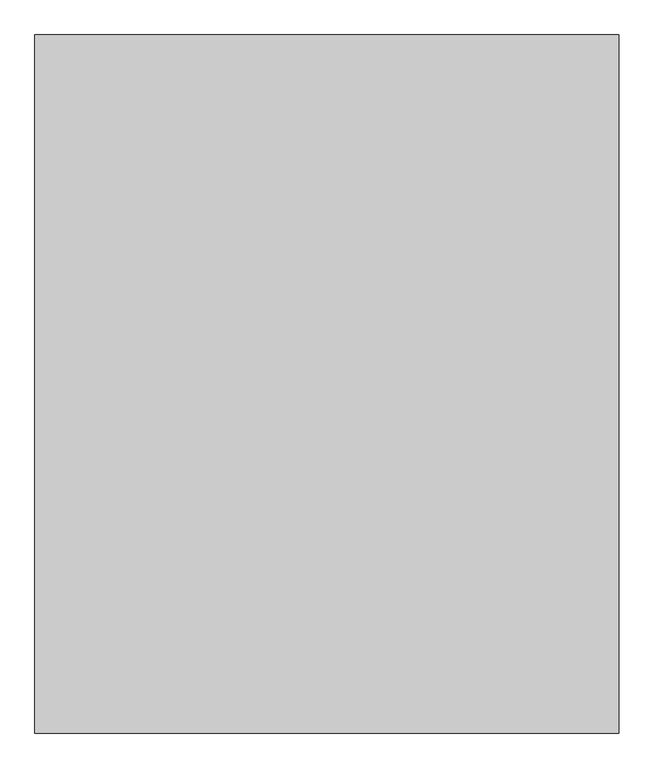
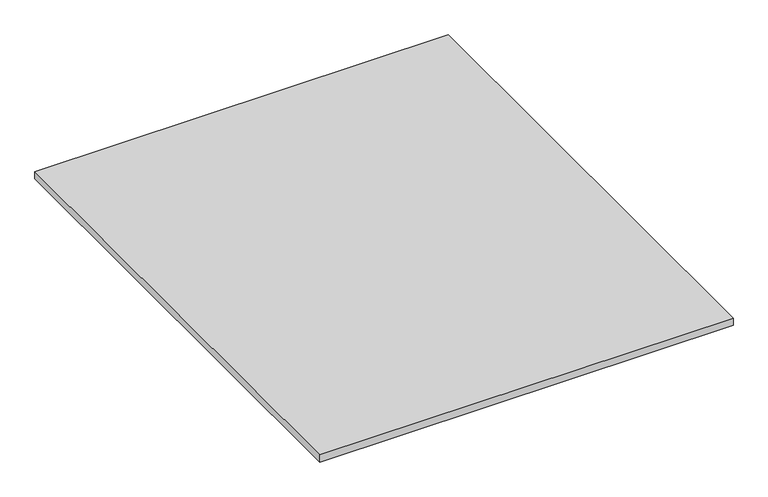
"""IFC4 building model written with IfcOpenShell, lengths in millimetres: proxy geometry, BASYS^U OFFICE 6_41 WALL HUNG RT TACK-PARTS SOLID."""

from ifc_helpers import new_model, si_unit, origin, origin_with_axes, place, context, project, spatial, polyline, outline, extrude, source, transform, mapped, element, save


def generic_models_cb12474e(model_context):
    return source(origin(), model_context, "Body", "SweptSolid", [
        extrude(outline(polyline([(1040.60625, 1243.0125), (1040.60625, 0.0), (0.0, 0.0), (0.0, 1243.0125), (1040.60625, 1243.0125)])), origin_with_axes(), (0.0, 0.0, 1.0), 19.05),
    ])


if __name__ == "__main__":
    model = new_model("IFC4")
    model_context = context("Model", 3, world=origin())
    ifc_project = project(units=[si_unit("LENGTHUNIT", "METRE", prefix="MILLI")], contexts=[model_context])
    site = spatial("IfcSite", under=ifc_project)
    building = spatial("IfcBuilding", under=site)
    placement = place(None, origin())
    generic_models_shape = generic_models_cb12474e(model_context)
    element("IfcBuildingElementProxy", 1, Name="BASYS^U OFFICE 6_41 WALL HUNG RT TACK-PARTS SOLID", ObjectType="BASYS^U OFFICE 6_41 WALL HUNG RT TACK-PARTS SOLID", at=placement, inside=building, context=model_context, shape_type="MappedRepresentation", body=[
        mapped(generic_models_shape, transform((0.0, 0.0, 0.0), x_axis=(1.0, 0.0, 0.0), y_axis=(0.0, 1.0, 0.0), z_axis=(0.0, 0.0, 1.0))),
    ])
    save(model, "model.ifc")
